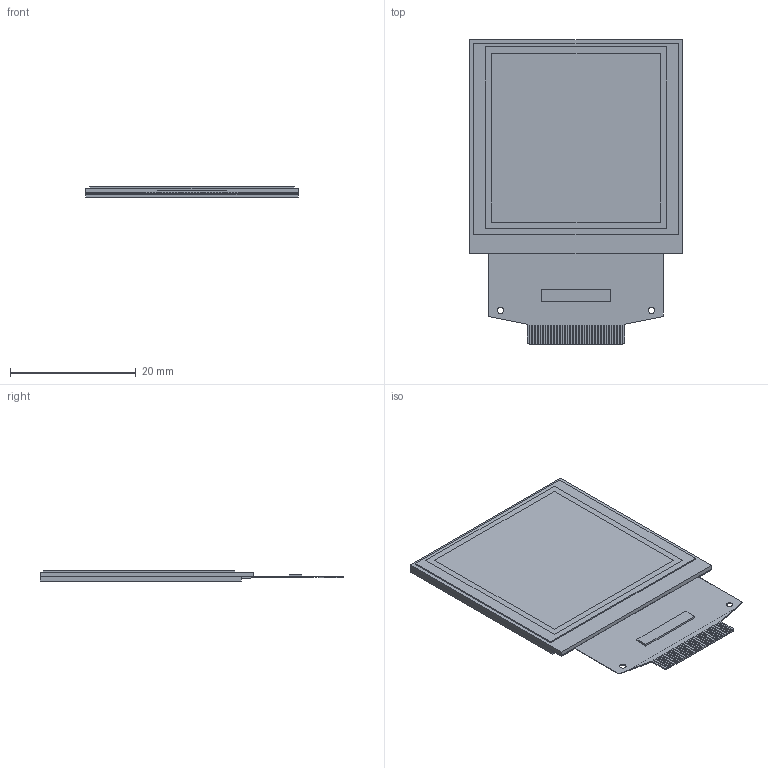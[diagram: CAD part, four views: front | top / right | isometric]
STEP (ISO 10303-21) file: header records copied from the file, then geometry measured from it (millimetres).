
FILE_DESCRIPTION (( 'STEP AP214' ), '1' );
FILE_NAME ('NHD-1.5-128128G.STEP', '2018-09-13T20:31:46', ( '' ), ( '' ), 'SwSTEP 2.0', 'SolidWorks 2018', '' );
FILE_SCHEMA (( 'AUTOMOTIVE_DESIGN' ));
Length unit declared in the file: millimetre
Products named in the file (1): NHD-1.5-128128G
Bounding box: 33.8 x 48.35 x 1.6 mm (x, y, z)
Volume: 2141.3 mm3; surface area: 8724.8 mm2
Topology: 5 solids, 5 shells, 182 faces, 508 edges, 338 vertices
Faces by surface type: plane 172, cylinder 10
Entity records: 5814 total; most frequent: CARTESIAN_POINT 1029, ORIENTED_EDGE 1016, DIRECTION 894, EDGE_CURVE 508, LINE 488, VECTOR 488, VERTEX_POINT 338, AXIS2_PLACEMENT_3D 203
